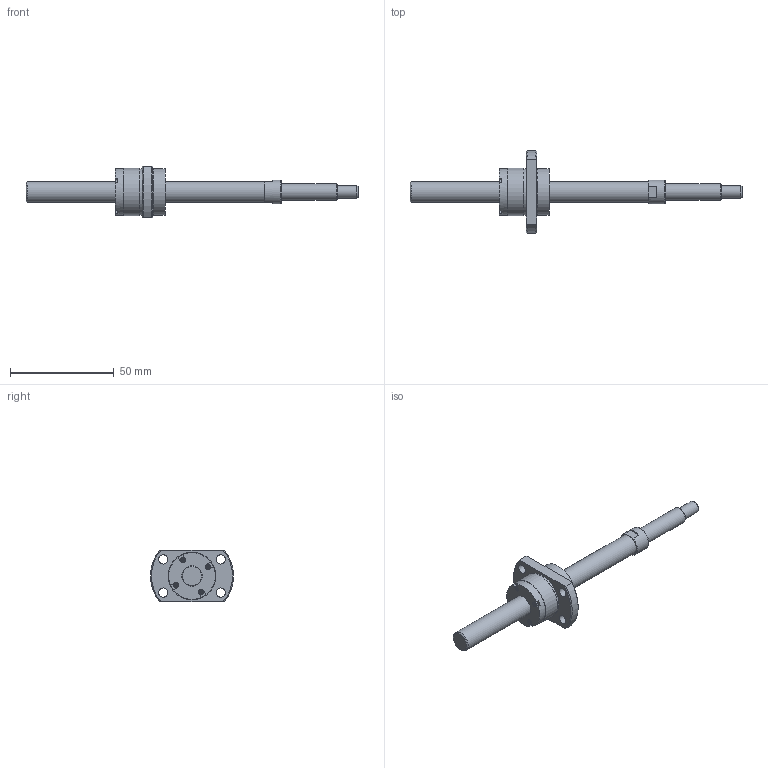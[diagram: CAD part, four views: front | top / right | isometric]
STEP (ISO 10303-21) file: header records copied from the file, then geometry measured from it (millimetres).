
FILE_DESCRIPTION( ( 'STEP AP214' ), '1' );
FILE_NAME( 'p:/temp/worker_8/2188_2204/app_90_12015063014482968319243260eae72_00_00_00_000/STEP/SG1010-110R160C5A1X_43__2_14.stp', ' ', ( ' ' ), ( ' ' ), 'PSStep 15.0.47', 'PARTsolutions', ' ' );
FILE_SCHEMA( ( 'AUTOMOTIVE_DESIGN { 1 0 10303 214 1 1 1 1 }' ) );
Length unit declared in the file: millimetre
Products named in the file (3): SG1010-110R160C5A1X(43); _SG1010-110R160C5A_shaft; _SG1010 C5_nut
Assembly tree (2 placements, depth 2):
  SG1010-110R160C5A1X(43)
    _SG1010-110R160C5A_shaft
    _SG1010 C5_nut
Bounding box: 160 x 40 x 25 mm (x, y, z)
Volume: 21584.3 mm3; surface area: 9576 mm2
Topology: 2 solids, 2 shells, 100 faces, 231 edges, 150 vertices
Faces by surface type: plane 63, cylinder 24, cone 12, torus 1
Full cylindrical faces by diameter (mm): 2.25 x2, 2.5 x2, 4.5 x4, 6 x1, 8 x1, 10 x2, 11.5 x1, 22.5 x3, 23 x2
Entity records: 3560 total; most frequent: CARTESIAN_POINT 477, DIRECTION 472, ORIENTED_EDGE 404, EDGE_CURVE 202, AXIS2_PLACEMENT_3D 175, EDGE_LOOP 152, VERTEX_POINT 148, LINE 122
